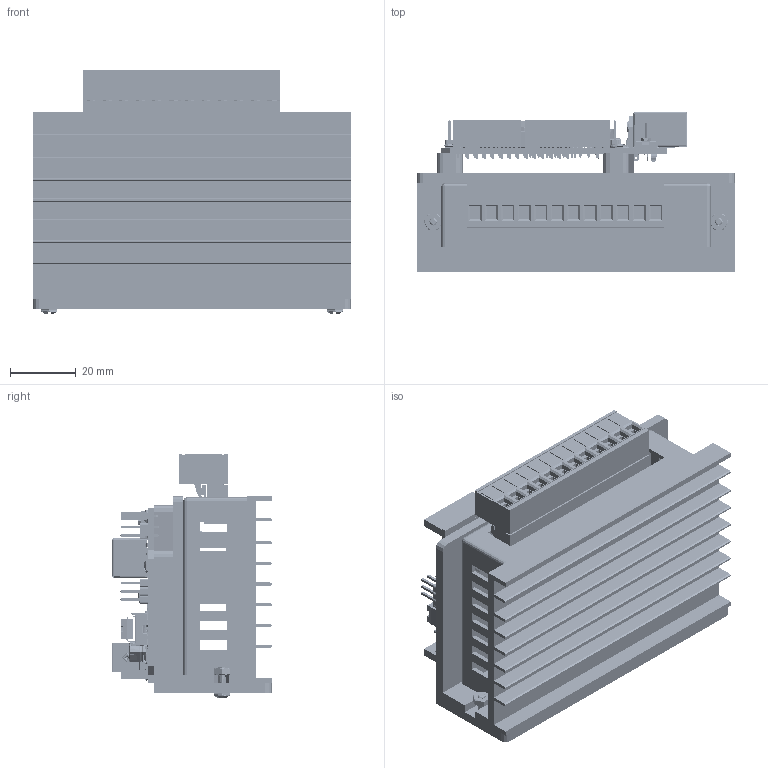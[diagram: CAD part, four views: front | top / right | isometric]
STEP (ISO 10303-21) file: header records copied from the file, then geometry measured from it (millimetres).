
FILE_DESCRIPTION(/* description */ (''),/* implementation_level */ '2;1');
FILE_NAME(/* name */ 'Assieme_tb6600_all.stp',/* time_stamp */ '2024-11-24T18:11:26+01:00',/* author */ ('R5800u'),/* organization */ (''),/* preprocessor_version */ 'ST-DEVELOPER v20',/* originating_system */ 'Autodesk Inventor 2025',/* authorisation */ '');
FILE_SCHEMA (('AUTOMOTIVE_DESIGN { 1 0 10303 214 3 1 1 }'));
Products named in the file (124): Assieme_tb6600; 0_3; ARDUINO-UNO_20; PCB; PCB Geometry; text; PART; USB; USB Geometry; Frame; PIN; dnpin; uppin; Hp6; Hp6_1; Hp6 Geometry; PIN11; DS-210; Component1; Component2; Component3; Component4; Component5; ATMEGA328P; ATMEGA328P Geometry; pin12; 28pin-soket; 28pin-soket Geometry; pin13; Pin6; Pin6 Geometry; pin14; Pin8; pin10; pin10 Geometry; pin16; Pin8_1; Pin8 Geometry; pin15; XTL16000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
Assembly tree (169 placements, depth 6):
  Assieme_tb6600
    0_3
    ARDUINO-UNO_20
      PCB
        PCB Geometry
        text
      PART
        USB
          USB Geometry
          Frame
          PIN
            uppin  x2
            dnpin  x2
        Hp6
          Hp6 Geometry
          PIN11
        Hp6_1
          Hp6 Geometry
          PIN11
        DS-210
          Component1
          Component2
          Component3
          Component4
          Component5
        ATMEGA328P
          ATMEGA328P Geometry
          pin12
          28pin-soket
            28pin-soket Geometry
            pin13
        Pin6
          Pin6 Geometry
          pin14
        Pin8
          Pin8 Geometry
          pin15
        pin10
          pin10 Geometry
          pin16
        Pin8_1
          Pin8 Geometry
          pin15
        XTL16000
          XTL16000 Geometry
          pin17
        PushBotton
          frm
          pin18
          bott
          body2
        47uf CAP Dcase
          body
            body Geometry
            cap
          pin19
        47uf CAP Dcase_1
          body_1
            body Geometry
            cap
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Bounding box: 97 x 48.7 x 74.15 mm (x, y, z)
Volume: 97301.8 mm3; surface area: 115053.7 mm2
Topology: 545 solids, 545 shells, 20215 faces, 53228 edges, 34946 vertices
Faces by surface type: plane 13250, bspline 4932, cylinder 1789, torus 122, cone 65, sphere 57
Full cylindrical faces by diameter (mm): 0.3 x1, 0.4 x1, 0.6 x1, 0.8 x140, 1 x14, 1.082 x1, 1.2 x1, 1.3 x1, 1.4 x1, 1.948 x2, 2 x36, 2.013 x2, 2.02 x16, 2.5 x6, 2.54 x2, 2.6 x12, 2.7 x2, 3 x19, 3.175 x4, 3.2 x1, 3.5 x2, 3.575 x4, 3.6 x12, 3.8 x12, 4 x4, 4.95 x2, 5.3 x2, 5.34 x2, 6.3 x4, 6.4 x1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
Entity records: 625271 total; most frequent: CARTESIAN_POINT 168653, ORIENTED_EDGE 98614, DIRECTION 77870, EDGE_CURVE 49307, LINE 36250, VECTOR 36250, VERTEX_POINT 32520, AXIS2_PLACEMENT_3D 20810
